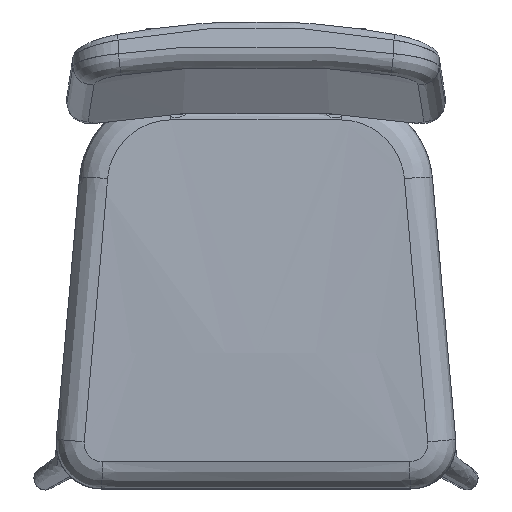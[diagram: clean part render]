
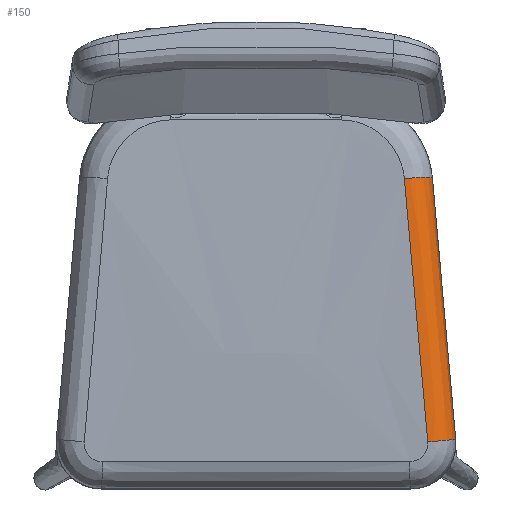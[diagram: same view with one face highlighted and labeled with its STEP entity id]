
A CAD part, top view. The second image highlights one B-rep face of the part: STEP entity #150.
In plain terms, the highlighted free-form (B-spline) face has degree [3, 2] with [12, 3] control points.
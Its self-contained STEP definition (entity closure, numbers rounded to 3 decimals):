
#150=ADVANCED_FACE('',(#282),#2037,.T.);
#282=FACE_OUTER_BOUND('',#414,.T.);
#414=EDGE_LOOP('',(#766,#767,#768,#769));
#766=ORIENTED_EDGE('',*,*,#1222,.T.);
#767=ORIENTED_EDGE('',*,*,#1215,.F.);
#768=ORIENTED_EDGE('',*,*,#1223,.F.);
#769=ORIENTED_EDGE('',*,*,#1224,.T.);
#1215=EDGE_CURVE('',#1832,#1850,#1607,.T.);
#1222=EDGE_CURVE('',#1853,#1850,#1478,.T.);
#1223=EDGE_CURVE('',#1849,#1832,#1479,.T.);
#1224=EDGE_CURVE('',#1849,#1853,#1614,.T.);
#1478=(
BOUNDED_CURVE()
B_SPLINE_CURVE(2,(#11563,#11564,#11565),.UNSPECIFIED.,.F.,.F.)
B_SPLINE_CURVE_WITH_KNOTS((3,3),(0.,48.097),.UNSPECIFIED.)
CURVE()
GEOMETRIC_REPRESENTATION_ITEM()
RATIONAL_B_SPLINE_CURVE((1.,0.696,1.))
REPRESENTATION_ITEM('')
);
#1479=(
BOUNDED_CURVE()
B_SPLINE_CURVE(2,(#11566,#11567,#11568),.UNSPECIFIED.,.F.,.F.)
B_SPLINE_CURVE_WITH_KNOTS((3,3),(0.,48.037),.UNSPECIFIED.)
CURVE()
GEOMETRIC_REPRESENTATION_ITEM()
RATIONAL_B_SPLINE_CURVE((1.,0.696,1.))
REPRESENTATION_ITEM('')
);
#1607=B_SPLINE_CURVE_WITH_KNOTS('',3,(#11247,#11248,#11249,#11250,#11251,
#11252,#11253,#11254,#11255,#11256),.UNSPECIFIED.,.F.,.F.,(4,2,2,2,4),(0.,
0.145,0.181,0.218,0.29),
 .UNSPECIFIED.);
#1614=B_SPLINE_CURVE_WITH_KNOTS('',3,(#11569,#11570,#11571,#11572,#11573,
#11574,#11575,#11576,#11577,#11578,#11579,#11580),.UNSPECIFIED.,.F.,.F.,
(4,2,2,2,2,4),(-0.291,-0.146,-0.109,
-0.091,-0.073,0.),.UNSPECIFIED.);
#1832=VERTEX_POINT('',#10669);
#1849=VERTEX_POINT('',#10686);
#1850=VERTEX_POINT('',#10687);
#1853=VERTEX_POINT('',#10690);
#2037=(
BOUNDED_SURFACE()
B_SPLINE_SURFACE(3,2,((#9000,#9001,#9002),(#9003,#9004,#9005),(#9006,#9007,
#9008),(#9009,#9010,#9011),(#9012,#9013,#9014),(#9015,#9016,#9017),(#9018,
#9019,#9020),(#9021,#9022,#9023),(#9024,#9025,#9026),(#9027,#9028,#9029),
(#9030,#9031,#9032),(#9033,#9034,#9035)),.UNSPECIFIED.,.F.,.F.,.F.)
B_SPLINE_SURFACE_WITH_KNOTS((4,2,2,2,2,4),(3,3),(0.,
72.807,91.009,109.211,145.614,291.229),
(0.,62.176),.UNSPECIFIED.)
GEOMETRIC_REPRESENTATION_ITEM()
RATIONAL_B_SPLINE_SURFACE(((1.,0.696,1.),
(1.,0.695,1.),(1.,
0.695,1.),(1.,0.695,1.),
(1.,0.695,1.),(1.,0.695,
1.),(1.,0.695,1.),
(1.,0.694,1.),(1.,
0.694,1.),(1.,0.695,
1.),(1.,0.695,1.),
(1.,0.696,1.)))
REPRESENTATION_ITEM('')
SURFACE()
);
#9000=CARTESIAN_POINT('',(220.068,55.156,419.5));
#9001=CARTESIAN_POINT('',(220.068,55.159,450.489));
#9002=CARTESIAN_POINT('',(189.217,52.408,449.484));
#9003=CARTESIAN_POINT('',(217.921,79.233,419.497));
#9004=CARTESIAN_POINT('',(217.905,79.406,450.508));
#9005=CARTESIAN_POINT('',(187.035,76.639,449.481));
#9006=CARTESIAN_POINT('',(215.774,103.308,419.306));
#9007=CARTESIAN_POINT('',(215.749,103.586,450.34));
#9008=CARTESIAN_POINT('',(184.855,100.814,449.287));
#9009=CARTESIAN_POINT('',(213.09,133.401,418.991));
#9010=CARTESIAN_POINT('',(213.06,133.736,450.05));
#9011=CARTESIAN_POINT('',(182.141,130.967,448.971));
#9012=CARTESIAN_POINT('',(212.553,139.42,418.924));
#9013=CARTESIAN_POINT('',(212.522,139.765,449.988));
#9014=CARTESIAN_POINT('',(181.599,136.994,448.904));
#9015=CARTESIAN_POINT('',(211.479,151.457,418.787));
#9016=CARTESIAN_POINT('',(211.448,151.814,449.86));
#9017=CARTESIAN_POINT('',(180.516,149.042,448.767));
#9018=CARTESIAN_POINT('',(210.943,157.475,418.718));
#9019=CARTESIAN_POINT('',(210.911,157.835,449.794));
#9020=CARTESIAN_POINT('',(179.976,155.063,448.697));
#9021=CARTESIAN_POINT('',(209.332,175.531,418.504));
#9022=CARTESIAN_POINT('',(209.299,175.91,449.588));
#9023=CARTESIAN_POINT('',(178.356,173.136,448.483));
#9024=CARTESIAN_POINT('',(208.259,187.568,418.354));
#9025=CARTESIAN_POINT('',(208.223,187.966,449.44));
#9026=CARTESIAN_POINT('',(177.279,185.193,448.333));
#9027=CARTESIAN_POINT('',(202.892,247.752,417.519));
#9028=CARTESIAN_POINT('',(202.844,248.29,448.593));
#9029=CARTESIAN_POINT('',(171.909,245.518,447.496));
#9030=CARTESIAN_POINT('',(198.598,295.893,416.579));
#9031=CARTESIAN_POINT('',(198.534,296.613,447.587));
#9032=CARTESIAN_POINT('',(167.657,293.902,446.556));
#9033=CARTESIAN_POINT('',(194.307,344.014,414.754));
#9034=CARTESIAN_POINT('',(194.203,345.177,445.66));
#9035=CARTESIAN_POINT('',(163.415,342.396,444.719));
#10669=CARTESIAN_POINT('',(194.307,344.014,414.754));
#10686=CARTESIAN_POINT('',(163.415,342.396,444.719));
#10687=CARTESIAN_POINT('',(220.068,55.156,419.5));
#10690=CARTESIAN_POINT('',(189.217,52.408,449.484));
#11247=CARTESIAN_POINT('',(194.307,344.014,414.754));
#11248=CARTESIAN_POINT('',(198.598,295.893,416.579));
#11249=CARTESIAN_POINT('',(202.892,247.752,417.519));
#11250=CARTESIAN_POINT('',(208.259,187.568,418.354));
#11251=CARTESIAN_POINT('',(209.332,175.531,418.504));
#11252=CARTESIAN_POINT('',(211.479,151.457,418.789));
#11253=CARTESIAN_POINT('',(212.553,139.42,418.928));
#11254=CARTESIAN_POINT('',(215.774,103.308,419.306));
#11255=CARTESIAN_POINT('',(217.921,79.233,419.497));
#11256=CARTESIAN_POINT('',(220.068,55.156,419.5));
#11563=CARTESIAN_POINT('',(189.217,52.408,449.484));
#11564=CARTESIAN_POINT('',(220.068,55.159,450.489));
#11565=CARTESIAN_POINT('',(220.068,55.156,419.5));
#11566=CARTESIAN_POINT('',(163.415,342.396,444.719));
#11567=CARTESIAN_POINT('',(194.203,345.177,445.66));
#11568=CARTESIAN_POINT('',(194.307,344.014,414.754));
#11569=CARTESIAN_POINT('',(163.415,342.396,444.719));
#11570=CARTESIAN_POINT('',(167.657,293.902,446.556));
#11571=CARTESIAN_POINT('',(171.909,245.518,447.496));
#11572=CARTESIAN_POINT('',(177.279,185.193,448.333));
#11573=CARTESIAN_POINT('',(178.356,173.136,448.483));
#11574=CARTESIAN_POINT('',(179.976,155.058,448.697));
#11575=CARTESIAN_POINT('',(180.517,149.034,448.767));
#11576=CARTESIAN_POINT('',(181.601,136.976,448.904));
#11577=CARTESIAN_POINT('',(182.144,130.945,448.971));
#11578=CARTESIAN_POINT('',(184.857,100.796,449.287));
#11579=CARTESIAN_POINT('',(187.036,76.63,449.481));
#11580=CARTESIAN_POINT('',(189.217,52.408,449.484));
